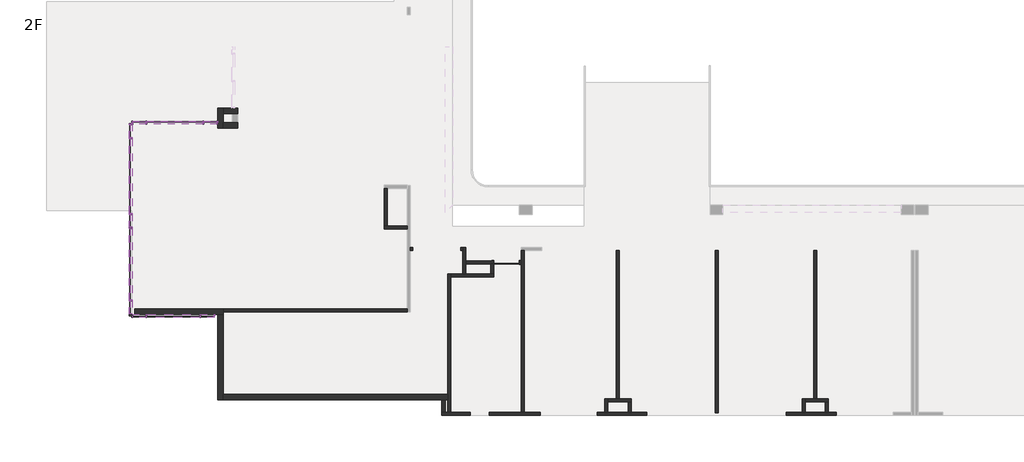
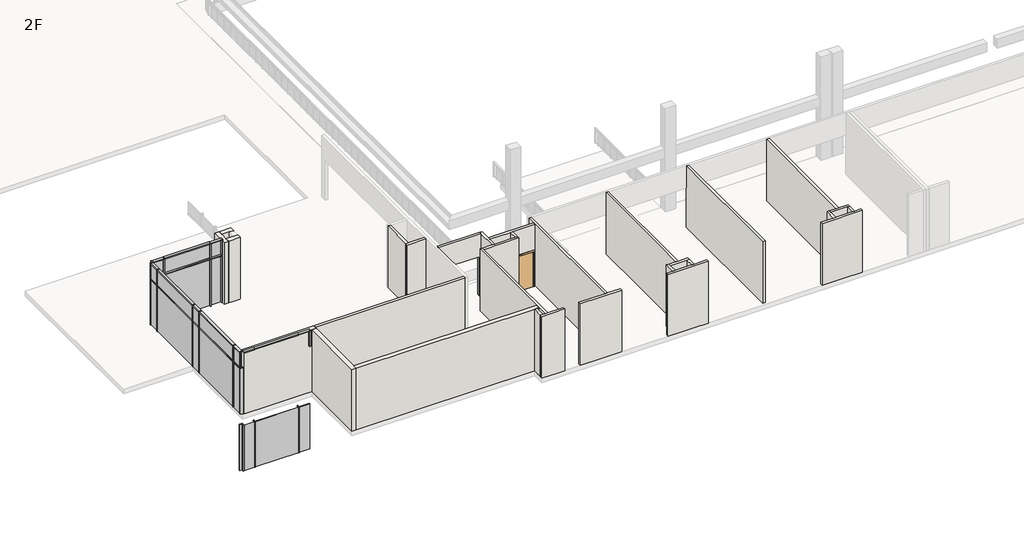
# One storey, part 1 of 6: 40 members, 30 walls, 19 plates, 1 door.
"""IFC4 building model written with IfcOpenShell, lengths in millimetres."""

from ifc_helpers import new_model, si_unit, frame, origin, place, context, project, spatial, polyline, outline, extrude, faceted_brep, transform, mapped, element, save
from components import m_single_flush_d_1200x2150_085a39eb, rectangular_mullion_50_x_150mm_64d38db8, rectangular_mullion_50_x_150mm_68b3818a, rectangular_mullion_50_x_150mm_0240cd64, rectangular_mullion_50_x_150mm_24ac0887, rectangular_mullion_50_x_150mm_8a594f5d, rectangular_mullion_50_x_150mm_86a57cfb, rectangular_mullion_50_x_150mm_fa1304e5, rectangular_mullion_50_x_150mm_567c0dda, rectangular_mullion_50_x_150mm_fb6851b2, rectangular_mullion_50_x_150mm_de4636ea, rectangular_mullion_50_x_150mm_603ec532, rectangular_mullion_50_x_150mm_2c7bb3b8, rectangular_mullion_50_x_150mm_2bd3e109, rectangular_mullion_50_x_150mm_2578323a, rectangular_mullion_50_x_150mm_bb797b61, rectangular_mullion_50_x_150mm_fae7d408, rectangular_mullion_50_x_150mm_eb2312db, v_corner_mullion_v_mullion_1_9a63857a, v_corner_mullion_v_mullion_1_634ccf5c, system_panel_glazed_e5239730, system_panel_glazed_59a07159, system_panel_glazed_c57c7bc0, system_panel_glazed_6001607f, system_panel_glazed_c925beaf, system_panel_glazed_53b3c72d, system_panel_glazed_bd177dae, system_panel_glazed_5e053889, system_panel_glazed_2f9f84b5, system_panel_glazed_45b61f71, system_panel_glazed_ecfc68fb, system_panel_glazed_2714af2c, system_panel_glazed_ea286d05, system_panel_glazed_212870f7

model = new_model("IFC4")

# Units and contexts
model_context = context("Model", 3, world=origin())
ifc_project = project(units=[si_unit("LENGTHUNIT", "METRE", prefix="MILLI")], contexts=[model_context])

# Site, building, storey
site = spatial("IfcSite", under=ifc_project)
building = spatial("IfcBuilding", under=site)
storey = spatial("IfcBuildingStorey", under=building, Name="2F", Elevation=8100.0)

# Door
placement = place(None, origin())
m_single_flush_d_1200x2150_shape = m_single_flush_d_1200x2150_085a39eb(model_context)
element("IfcDoor", 1, ObjectType="M_Single-Flush : D-1200x2150", at=placement, inside=storey, context=model_context, shape_type="MappedRepresentation", body=[
    mapped(m_single_flush_d_1200x2150_shape, transform((-18037.5865899, -18671.6148653, 8100.0), x_axis=(1.0, 0.0, 0.0), y_axis=(0.0, 1.0, 0.0), z_axis=(0.0, 0.0, 1.0))),
])

# Members
rectangular_mullion_50_x_150mm_shape = rectangular_mullion_50_x_150mm_64d38db8(model_context)
element("IfcMember", 2, ObjectType="Rectangular Mullion : 50 x 150mm", at=placement, inside=storey, context=model_context, shape_type="MappedRepresentation", body=[
    mapped(rectangular_mullion_50_x_150mm_shape, transform((-35612.5865899, -20472.6148653, 11950.0), x_axis=(0.0, 0.0, 1.0), y_axis=(1.0, 0.0, 0.0), z_axis=(0.0, 1.0, 0.0))),
])
element("IfcMember", 3, ObjectType="Rectangular Mullion : 50 x 150mm", at=placement, inside=storey, context=model_context, shape_type="MappedRepresentation", body=[
    mapped(rectangular_mullion_50_x_150mm_shape, transform((-35612.5865899, -16422.6148653, 11950.0), x_axis=(0.0, 0.0, 1.0), y_axis=(1.0, 0.0, 0.0), z_axis=(0.0, 1.0, 0.0))),
])
element("IfcMember", 4, ObjectType="Rectangular Mullion : 50 x 150mm", at=placement, inside=storey, context=model_context, shape_type="MappedRepresentation", body=[
    mapped(rectangular_mullion_50_x_150mm_shape, transform((-32337.5865899, -21172.6148653, 11950.0), x_axis=(0.0, 0.0, 1.0), y_axis=(0.0, 1.0, 0.0), z_axis=(-1.0, 0.0, 0.0))),
])
rectangular_mullion_50_x_150mm_2_shape = rectangular_mullion_50_x_150mm_68b3818a(model_context)
element("IfcMember", 5, ObjectType="Rectangular Mullion : 50 x 150mm", at=placement, inside=storey, context=model_context, shape_type="MappedRepresentation", body=[
    mapped(rectangular_mullion_50_x_150mm_2_shape, transform((-35612.5865899, -20472.6148653, 10975.0), x_axis=(0.0, 0.0, 1.0), y_axis=(1.0, 0.0, 0.0), z_axis=(0.0, 1.0, 0.0))),
])
element("IfcMember", 6, ObjectType="Rectangular Mullion : 50 x 150mm", at=placement, inside=storey, context=model_context, shape_type="MappedRepresentation", body=[
    mapped(rectangular_mullion_50_x_150mm_2_shape, transform((-35612.5865899, -16422.6148653, 10975.0), x_axis=(0.0, 0.0, 1.0), y_axis=(1.0, 0.0, 0.0), z_axis=(0.0, 1.0, 0.0))),
])
element("IfcMember", 7, ObjectType="Rectangular Mullion : 50 x 150mm", at=placement, inside=storey, context=model_context, shape_type="MappedRepresentation", body=[
    mapped(rectangular_mullion_50_x_150mm_2_shape, transform((-35612.5865899, -12227.6148653, 10975.0), x_axis=(0.0, 0.0, 1.0), y_axis=(1.0, 0.0, 0.0), z_axis=(0.0, 1.0, 0.0))),
])
rectangular_mullion_50_x_150mm_3_shape = rectangular_mullion_50_x_150mm_0240cd64(model_context)
element("IfcMember", 8, ObjectType="Rectangular Mullion : 50 x 150mm", at=placement, inside=storey, context=model_context, shape_type="MappedRepresentation", body=[
    mapped(rectangular_mullion_50_x_150mm_3_shape, transform((-34862.5865899, -21172.6148653, 11950.0), x_axis=(0.0, 0.0, 1.0), y_axis=(0.0, 1.0, 0.0), z_axis=(-1.0, 0.0, 0.0))),
])
rectangular_mullion_50_x_150mm_4_shape = rectangular_mullion_50_x_150mm_24ac0887(model_context)
element("IfcMember", 9, ObjectType="Rectangular Mullion : 50 x 150mm", at=placement, inside=storey, context=model_context, shape_type="MappedRepresentation", body=[
    mapped(rectangular_mullion_50_x_150mm_4_shape, transform((-35612.5865899, -17072.6148653, 11950.0), x_axis=(0.0, 0.0, 1.0), y_axis=(1.0, 0.0, 0.0), z_axis=(0.0, 1.0, 0.0))),
])
element("IfcMember", 10, ObjectType="Rectangular Mullion : 50 x 150mm", at=placement, inside=storey, context=model_context, shape_type="MappedRepresentation", body=[
    mapped(rectangular_mullion_50_x_150mm_shape, transform((-35512.5865899, -21172.6148653, 11950.0), x_axis=(0.0, 0.0, 1.0), y_axis=(0.0, 1.0, 0.0), z_axis=(-1.0, 0.0, 0.0))),
])
element("IfcMember", 11, ObjectType="Rectangular Mullion : 50 x 150mm", at=placement, inside=storey, context=model_context, shape_type="MappedRepresentation", body=[
    mapped(rectangular_mullion_50_x_150mm_shape, transform((-35612.5865899, -12227.6148653, 11950.0), x_axis=(0.0, 0.0, 1.0), y_axis=(1.0, 0.0, 0.0), z_axis=(0.0, 1.0, 0.0))),
])
element("IfcMember", 12, ObjectType="Rectangular Mullion : 50 x 150mm", at=placement, inside=storey, context=model_context, shape_type="MappedRepresentation", body=[
    mapped(rectangular_mullion_50_x_150mm_shape, transform((-35512.5865899, -12127.6148653, 11950.0), x_axis=(0.0, 0.0, 1.0), y_axis=(0.0, 1.0, 0.0), z_axis=(-1.0, 0.0, 0.0))),
])
element("IfcMember", 13, ObjectType="Rectangular Mullion : 50 x 150mm", at=placement, inside=storey, context=model_context, shape_type="MappedRepresentation", body=[
    mapped(rectangular_mullion_50_x_150mm_2_shape, transform((-35512.5865899, -12127.6148653, 10975.0), x_axis=(0.0, 0.0, 1.0), y_axis=(0.0, 1.0, 0.0), z_axis=(-1.0, 0.0, 0.0))),
])
rectangular_mullion_50_x_150mm_5_shape = rectangular_mullion_50_x_150mm_8a594f5d(model_context)
element("IfcMember", 14, ObjectType="Rectangular Mullion : 50 x 150mm", at=placement, inside=storey, context=model_context, shape_type="MappedRepresentation", body=[
    mapped(rectangular_mullion_50_x_150mm_5_shape, transform((-35612.5865899, -12877.6148653, 11950.0), x_axis=(0.0, 0.0, 1.0), y_axis=(1.0, 0.0, 0.0), z_axis=(0.0, 1.0, 0.0))),
])
rectangular_mullion_50_x_150mm_6_shape = rectangular_mullion_50_x_150mm_86a57cfb(model_context)
element("IfcMember", 15, ObjectType="Rectangular Mullion : 50 x 150mm", at=placement, inside=storey, context=model_context, shape_type="MappedRepresentation", body=[
    mapped(rectangular_mullion_50_x_150mm_6_shape, transform((-35612.5865899, -17072.6148653, 10975.0), x_axis=(0.0, 0.0, 1.0), y_axis=(1.0, 0.0, 0.0), z_axis=(0.0, 1.0, 0.0))),
])
rectangular_mullion_50_x_150mm_7_shape = rectangular_mullion_50_x_150mm_fa1304e5(model_context)
element("IfcMember", 16, ObjectType="Rectangular Mullion : 50 x 150mm", at=placement, inside=storey, context=model_context, shape_type="MappedRepresentation", body=[
    mapped(rectangular_mullion_50_x_150mm_7_shape, transform((-35612.5865899, -12877.6148653, 10975.0), x_axis=(0.0, 0.0, 1.0), y_axis=(1.0, 0.0, 0.0), z_axis=(0.0, 1.0, 0.0))),
])
rectangular_mullion_50_x_150mm_8_shape = rectangular_mullion_50_x_150mm_567c0dda(model_context)
element("IfcMember", 17, ObjectType="Rectangular Mullion : 50 x 150mm", at=placement, inside=storey, context=model_context, shape_type="MappedRepresentation", body=[
    mapped(rectangular_mullion_50_x_150mm_8_shape, transform((-35612.5865899, -20447.6148653, 8200.0), x_axis=(0.0, 1.0, 0.0), y_axis=(1.0, 0.0, 0.0), z_axis=(0.0, 0.0, -1.0))),
])
element("IfcMember", 18, ObjectType="Rectangular Mullion : 50 x 150mm", at=placement, inside=storey, context=model_context, shape_type="MappedRepresentation", body=[
    mapped(rectangular_mullion_50_x_150mm_8_shape, transform((-35612.5865899, -12852.6148653, 8200.0), x_axis=(0.0, 1.0, 0.0), y_axis=(1.0, 0.0, 0.0), z_axis=(0.0, 0.0, -1.0))),
])
element("IfcMember", 19, ObjectType="Rectangular Mullion : 50 x 150mm", at=placement, inside=storey, context=model_context, shape_type="MappedRepresentation", body=[
    mapped(rectangular_mullion_50_x_150mm_8_shape, transform((-35612.5865899, -16397.6148653, 8200.0), x_axis=(0.0, 1.0, 0.0), y_axis=(1.0, 0.0, 0.0), z_axis=(0.0, 0.0, -1.0))),
])
element("IfcMember", 20, ObjectType="Rectangular Mullion : 50 x 150mm", at=placement, inside=storey, context=model_context, shape_type="MappedRepresentation", body=[
    mapped(rectangular_mullion_50_x_150mm_8_shape, transform((-35612.5865899, -17047.6148653, 8200.0), x_axis=(0.0, 1.0, 0.0), y_axis=(1.0, 0.0, 0.0), z_axis=(0.0, 0.0, -1.0))),
])
element("IfcMember", 21, ObjectType="Rectangular Mullion : 50 x 150mm", at=placement, inside=storey, context=model_context, shape_type="MappedRepresentation", body=[
    mapped(rectangular_mullion_50_x_150mm_8_shape, transform((-34887.5865899, -21172.6148653, 4750.0), x_axis=(-1.0, 0.0, 0.0), y_axis=(0.0, 1.0, 0.0), z_axis=(0.0, 0.0, -1.0))),
])
element("IfcMember", 22, ObjectType="Rectangular Mullion : 50 x 150mm", at=placement, inside=storey, context=model_context, shape_type="MappedRepresentation", body=[
    mapped(rectangular_mullion_50_x_150mm_8_shape, transform((-32362.5865899, -21172.6148653, 4750.0), x_axis=(-1.0, 0.0, 0.0), y_axis=(0.0, 1.0, 0.0), z_axis=(0.0, 0.0, -1.0))),
])
rectangular_mullion_50_x_150mm_9_shape = rectangular_mullion_50_x_150mm_fb6851b2(model_context)
element("IfcMember", 23, ObjectType="Rectangular Mullion : 50 x 150mm", at=placement, inside=storey, context=model_context, shape_type="MappedRepresentation", body=[
    mapped(rectangular_mullion_50_x_150mm_9_shape, transform((-35612.5865899, -21172.6148653, 10975.0), x_axis=(0.0, -1.0, 0.0), y_axis=(1.0, 0.0, 0.0), z_axis=(0.0, 0.0, 1.0))),
])
rectangular_mullion_50_x_150mm_10_shape = rectangular_mullion_50_x_150mm_de4636ea(model_context)
element("IfcMember", 24, ObjectType="Rectangular Mullion : 50 x 150mm", at=placement, inside=storey, context=model_context, shape_type="MappedRepresentation", body=[
    mapped(rectangular_mullion_50_x_150mm_10_shape, transform((-34862.5865899, -12127.6148653, 11950.0), x_axis=(0.0, 0.0, 1.0), y_axis=(0.0, 1.0, 0.0), z_axis=(-1.0, 0.0, 0.0))),
])
rectangular_mullion_50_x_150mm_11_shape = rectangular_mullion_50_x_150mm_603ec532(model_context)
element("IfcMember", 25, ObjectType="Rectangular Mullion : 50 x 150mm", at=placement, inside=storey, context=model_context, shape_type="MappedRepresentation", body=[
    mapped(rectangular_mullion_50_x_150mm_11_shape, transform((-34887.5865899, -12127.6148653, 8100.0), x_axis=(-1.0, 0.0, 0.0), y_axis=(0.0, 1.0, 0.0), z_axis=(0.0, 0.0, -1.0))),
])
element("IfcMember", 26, ObjectType="Rectangular Mullion : 50 x 150mm", at=placement, inside=storey, context=model_context, shape_type="MappedRepresentation", body=[
    mapped(rectangular_mullion_50_x_150mm_11_shape, transform((-32212.5865899, -12127.6148653, 8100.0), x_axis=(-1.0, 0.0, 0.0), y_axis=(0.0, 1.0, 0.0), z_axis=(0.0, 0.0, -1.0))),
])
rectangular_mullion_50_x_150mm_12_shape = rectangular_mullion_50_x_150mm_2c7bb3b8(model_context)
element("IfcMember", 27, ObjectType="Rectangular Mullion : 50 x 150mm", at=placement, inside=storey, context=model_context, shape_type="MappedRepresentation", body=[
    mapped(rectangular_mullion_50_x_150mm_12_shape, transform((-34862.5865899, -12127.6148653, 10975.0), x_axis=(0.0, 0.0, 1.0), y_axis=(0.0, 1.0, 0.0), z_axis=(-1.0, 0.0, 0.0))),
])
rectangular_mullion_50_x_150mm_13_shape = rectangular_mullion_50_x_150mm_2bd3e109(model_context)
element("IfcMember", 28, ObjectType="Rectangular Mullion : 50 x 150mm", at=placement, inside=storey, context=model_context, shape_type="MappedRepresentation", body=[
    mapped(rectangular_mullion_50_x_150mm_13_shape, transform((-31536.0865899, -12127.6148653, 10975.0), x_axis=(1.0, 0.0, 0.0), y_axis=(0.0, 1.0, 0.0), z_axis=(0.0, 0.0, 1.0))),
])
rectangular_mullion_50_x_150mm_14_shape = rectangular_mullion_50_x_150mm_2578323a(model_context)
element("IfcMember", 29, ObjectType="Rectangular Mullion : 50 x 150mm", at=placement, inside=storey, context=model_context, shape_type="MappedRepresentation", body=[
    mapped(rectangular_mullion_50_x_150mm_14_shape, transform((-31687.5865899, -21172.6148653, 11950.0), x_axis=(1.0, 0.0, 0.0), y_axis=(0.0, 1.0, 0.0), z_axis=(0.0, 0.0, 1.0))),
])
rectangular_mullion_50_x_150mm_15_shape = rectangular_mullion_50_x_150mm_bb797b61(model_context)
element("IfcMember", 30, ObjectType="Rectangular Mullion : 50 x 150mm", at=placement, inside=storey, context=model_context, shape_type="MappedRepresentation", body=[
    mapped(rectangular_mullion_50_x_150mm_15_shape, transform((-35612.5865899, -20447.6148653, 10975.0), x_axis=(0.0, 1.0, 0.0), y_axis=(1.0, 0.0, 0.0), z_axis=(0.0, 0.0, -1.0))),
])
element("IfcMember", 31, ObjectType="Rectangular Mullion : 50 x 150mm", at=placement, inside=storey, context=model_context, shape_type="MappedRepresentation", body=[
    mapped(rectangular_mullion_50_x_150mm_15_shape, transform((-35612.5865899, -17047.6148653, 10975.0), x_axis=(0.0, 1.0, 0.0), y_axis=(1.0, 0.0, 0.0), z_axis=(0.0, 0.0, -1.0))),
])
element("IfcMember", 32, ObjectType="Rectangular Mullion : 50 x 150mm", at=placement, inside=storey, context=model_context, shape_type="MappedRepresentation", body=[
    mapped(rectangular_mullion_50_x_150mm_15_shape, transform((-35612.5865899, -16397.6148653, 10975.0), x_axis=(0.0, 1.0, 0.0), y_axis=(1.0, 0.0, 0.0), z_axis=(0.0, 0.0, -1.0))),
])
element("IfcMember", 33, ObjectType="Rectangular Mullion : 50 x 150mm", at=placement, inside=storey, context=model_context, shape_type="MappedRepresentation", body=[
    mapped(rectangular_mullion_50_x_150mm_15_shape, transform((-35612.5865899, -12852.6148653, 10975.0), x_axis=(0.0, 1.0, 0.0), y_axis=(1.0, 0.0, 0.0), z_axis=(0.0, 0.0, -1.0))),
])
element("IfcMember", 34, ObjectType="Rectangular Mullion : 50 x 150mm", at=placement, inside=storey, context=model_context, shape_type="MappedRepresentation", body=[
    mapped(rectangular_mullion_50_x_150mm_15_shape, transform((-34887.5865899, -12127.6148653, 10975.0), x_axis=(-1.0, 0.0, 0.0), y_axis=(0.0, 1.0, 0.0), z_axis=(0.0, 0.0, -1.0))),
])
element("IfcMember", 35, ObjectType="Rectangular Mullion : 50 x 150mm", at=placement, inside=storey, context=model_context, shape_type="MappedRepresentation", body=[
    mapped(rectangular_mullion_50_x_150mm_15_shape, transform((-32212.5865899, -12127.6148653, 10975.0), x_axis=(-1.0, 0.0, 0.0), y_axis=(0.0, 1.0, 0.0), z_axis=(0.0, 0.0, -1.0))),
])
element("IfcMember", 36, ObjectType="Rectangular Mullion : 50 x 150mm", at=placement, inside=storey, context=model_context, shape_type="MappedRepresentation", body=[
    mapped(rectangular_mullion_50_x_150mm_14_shape, transform((-31536.0865899, -12127.6148653, 11950.0), x_axis=(1.0, 0.0, 0.0), y_axis=(0.0, 1.0, 0.0), z_axis=(0.0, 0.0, 1.0))),
])
rectangular_mullion_50_x_150mm_16_shape = rectangular_mullion_50_x_150mm_fae7d408(model_context)
element("IfcMember", 37, ObjectType="Rectangular Mullion : 50 x 150mm", at=placement, inside=storey, context=model_context, shape_type="MappedRepresentation", body=[
    mapped(rectangular_mullion_50_x_150mm_16_shape, transform((-32187.5865899, -12127.6148653, 10975.0), x_axis=(0.0, 0.0, 1.0), y_axis=(0.0, 1.0, 0.0), z_axis=(-1.0, 0.0, 0.0))),
])
rectangular_mullion_50_x_150mm_17_shape = rectangular_mullion_50_x_150mm_eb2312db(model_context)
element("IfcMember", 38, ObjectType="Rectangular Mullion : 50 x 150mm", at=placement, inside=storey, context=model_context, shape_type="MappedRepresentation", body=[
    mapped(rectangular_mullion_50_x_150mm_17_shape, transform((-32187.5865899, -12127.6148653, 11950.0), x_axis=(0.0, 0.0, 1.0), y_axis=(0.0, 1.0, 0.0), z_axis=(-1.0, 0.0, 0.0))),
])
v_corner_mullion_v_mullion_1_shape = v_corner_mullion_v_mullion_1_9a63857a(model_context)
element("IfcMember", 39, ObjectType="V Corner Mullion : V Mullion 1", at=placement, inside=storey, context=model_context, shape_type="MappedRepresentation", body=[
    mapped(v_corner_mullion_v_mullion_1_shape, transform((-35612.5865899, -21172.6148653, 4750.0), x_axis=(-1.0, 0.0, 0.0), y_axis=(0.0, 1.0, 0.0), z_axis=(0.0, 0.0, -1.0))),
])
element("IfcMember", 40, ObjectType="V Corner Mullion : V Mullion 1", at=placement, inside=storey, context=model_context, shape_type="MappedRepresentation", body=[
    mapped(v_corner_mullion_v_mullion_1_shape, transform((-35612.5865899, -12127.6148653, 8200.0), x_axis=(0.0, 1.0, 0.0), y_axis=(1.0, 0.0, 0.0), z_axis=(0.0, 0.0, -1.0))),
])
v_corner_mullion_v_mullion_1_2_shape = v_corner_mullion_v_mullion_1_634ccf5c(model_context)
element("IfcMember", 41, ObjectType="V Corner Mullion : V Mullion 1", at=placement, inside=storey, context=model_context, shape_type="MappedRepresentation", body=[
    mapped(v_corner_mullion_v_mullion_1_2_shape, transform((-35612.5865899, -12127.6148653, 10975.0), x_axis=(0.0, 1.0, 0.0), y_axis=(1.0, 0.0, 0.0), z_axis=(0.0, 0.0, -1.0))),
])

# Plates
system_panel_glazed_shape = system_panel_glazed_e5239730(model_context)
element("IfcPlate", 42, ObjectType="System Panel : Glazed", at=placement, inside=storey, context=model_context, shape_type="MappedRepresentation", body=[
    mapped(system_panel_glazed_shape, transform((-32037.5865899, -21172.6148653, 4750.0), x_axis=(-1.0, 0.0, 0.0), y_axis=(0.0, -1.0, 0.0), z_axis=(0.0, 0.0, 1.0))),
])
element("IfcPlate", 43, ObjectType="System Panel : Glazed", at=placement, inside=storey, context=model_context, shape_type="MappedRepresentation", body=[
    mapped(system_panel_glazed_shape, transform((-35612.5865899, -12527.6148653, 8200.0), x_axis=(0.0, 1.0, 0.0), y_axis=(-1.0, 0.0, 0.0), z_axis=(0.0, 0.0, 1.0))),
])
element("IfcPlate", 44, ObjectType="System Panel : Glazed", at=placement, inside=storey, context=model_context, shape_type="MappedRepresentation", body=[
    mapped(system_panel_glazed_shape, transform((-35612.5865899, -16722.6148653, 8200.0), x_axis=(0.0, 1.0, 0.0), y_axis=(-1.0, 0.0, 0.0), z_axis=(0.0, 0.0, 1.0))),
])
element("IfcPlate", 45, ObjectType="System Panel : Glazed", at=placement, inside=storey, context=model_context, shape_type="MappedRepresentation", body=[
    mapped(system_panel_glazed_shape, transform((-35212.5865899, -21172.6148653, 4750.0), x_axis=(-1.0, 0.0, 0.0), y_axis=(0.0, -1.0, 0.0), z_axis=(0.0, 0.0, 1.0))),
])
system_panel_glazed_2_shape = system_panel_glazed_59a07159(model_context)
element("IfcPlate", 46, ObjectType="System Panel : Glazed", at=placement, inside=storey, context=model_context, shape_type="MappedRepresentation", body=[
    mapped(system_panel_glazed_2_shape, transform((-35612.5865899, -20797.6148653, 8200.0), x_axis=(0.0, 1.0, 0.0), y_axis=(-1.0, 0.0, 0.0), z_axis=(0.0, 0.0, 1.0))),
])
system_panel_glazed_3_shape = system_panel_glazed_c57c7bc0(model_context)
element("IfcPlate", 47, ObjectType="System Panel : Glazed", at=placement, inside=storey, context=model_context, shape_type="MappedRepresentation", body=[
    mapped(system_panel_glazed_3_shape, transform((-35612.5865899, -18747.6148653, 8200.0), x_axis=(0.0, 1.0, 0.0), y_axis=(-1.0, 0.0, 0.0), z_axis=(0.0, 0.0, 1.0))),
])
system_panel_glazed_4_shape = system_panel_glazed_6001607f(model_context)
element("IfcPlate", 48, ObjectType="System Panel : Glazed", at=placement, inside=storey, context=model_context, shape_type="MappedRepresentation", body=[
    mapped(system_panel_glazed_4_shape, transform((-35612.5865899, -14625.1148653, 8200.0), x_axis=(0.0, 1.0, 0.0), y_axis=(-1.0, 0.0, 0.0), z_axis=(0.0, 0.0, 1.0))),
])
system_panel_glazed_5_shape = system_panel_glazed_c925beaf(model_context)
element("IfcPlate", 49, ObjectType="System Panel : Glazed", at=placement, inside=storey, context=model_context, shape_type="MappedRepresentation", body=[
    mapped(system_panel_glazed_5_shape, transform((-33625.0865899, -21172.6148653, 4750.0), x_axis=(-1.0, 0.0, 0.0), y_axis=(0.0, -1.0, 0.0), z_axis=(0.0, 0.0, 1.0))),
])
system_panel_glazed_6_shape = system_panel_glazed_53b3c72d(model_context)
element("IfcPlate", 50, ObjectType="System Panel : Glazed", at=placement, inside=storey, context=model_context, shape_type="MappedRepresentation", body=[
    mapped(system_panel_glazed_6_shape, transform((-35212.5865899, -12127.6148653, 8100.0), x_axis=(-1.0, 0.0, 0.0), y_axis=(0.0, -1.0, 0.0), z_axis=(0.0, 0.0, 1.0))),
])
system_panel_glazed_7_shape = system_panel_glazed_bd177dae(model_context)
element("IfcPlate", 51, ObjectType="System Panel : Glazed", at=placement, inside=storey, context=model_context, shape_type="MappedRepresentation", body=[
    mapped(system_panel_glazed_7_shape, transform((-33550.0865899, -12127.6148653, 8100.0), x_axis=(-1.0, 0.0, 0.0), y_axis=(0.0, -1.0, 0.0), z_axis=(0.0, 0.0, 1.0))),
])
system_panel_glazed_8_shape = system_panel_glazed_5e053889(model_context)
element("IfcPlate", 52, ObjectType="System Panel : Glazed", at=placement, inside=storey, context=model_context, shape_type="MappedRepresentation", body=[
    mapped(system_panel_glazed_8_shape, transform((-35612.5865899, -20772.6148653, 11000.0), x_axis=(0.0, 1.0, 0.0), y_axis=(-1.0, 0.0, 0.0), z_axis=(0.0, 0.0, 1.0))),
])
element("IfcPlate", 53, ObjectType="System Panel : Glazed", at=placement, inside=storey, context=model_context, shape_type="MappedRepresentation", body=[
    mapped(system_panel_glazed_8_shape, transform((-35612.5865899, -16722.6148653, 11000.0), x_axis=(0.0, 1.0, 0.0), y_axis=(-1.0, 0.0, 0.0), z_axis=(0.0, 0.0, 1.0))),
])
element("IfcPlate", 54, ObjectType="System Panel : Glazed", at=placement, inside=storey, context=model_context, shape_type="MappedRepresentation", body=[
    mapped(system_panel_glazed_8_shape, transform((-35612.5865899, -12527.6148653, 11000.0), x_axis=(0.0, 1.0, 0.0), y_axis=(-1.0, 0.0, 0.0), z_axis=(0.0, 0.0, 1.0))),
])
system_panel_glazed_9_shape = system_panel_glazed_2f9f84b5(model_context)
element("IfcPlate", 55, ObjectType="System Panel : Glazed", at=placement, inside=storey, context=model_context, shape_type="MappedRepresentation", body=[
    mapped(system_panel_glazed_9_shape, transform((-35612.5865899, -18747.6148653, 11000.0), x_axis=(0.0, 1.0, 0.0), y_axis=(-1.0, 0.0, 0.0), z_axis=(0.0, 0.0, 1.0))),
])
system_panel_glazed_10_shape = system_panel_glazed_45b61f71(model_context)
element("IfcPlate", 56, ObjectType="System Panel : Glazed", at=placement, inside=storey, context=model_context, shape_type="MappedRepresentation", body=[
    mapped(system_panel_glazed_10_shape, transform((-35612.5865899, -14625.1148653, 11000.0), x_axis=(0.0, 1.0, 0.0), y_axis=(-1.0, 0.0, 0.0), z_axis=(0.0, 0.0, 1.0))),
])
system_panel_glazed_11_shape = system_panel_glazed_ecfc68fb(model_context)
element("IfcPlate", 57, ObjectType="System Panel : Glazed", at=placement, inside=storey, context=model_context, shape_type="MappedRepresentation", body=[
    mapped(system_panel_glazed_11_shape, transform((-35212.5865899, -12127.6148653, 11000.0), x_axis=(-1.0, 0.0, 0.0), y_axis=(0.0, -1.0, 0.0), z_axis=(0.0, 0.0, 1.0))),
])
system_panel_glazed_12_shape = system_panel_glazed_2714af2c(model_context)
element("IfcPlate", 58, ObjectType="System Panel : Glazed", at=placement, inside=storey, context=model_context, shape_type="MappedRepresentation", body=[
    mapped(system_panel_glazed_12_shape, transform((-33550.0865899, -12127.6148653, 11000.0), x_axis=(-1.0, 0.0, 0.0), y_axis=(0.0, -1.0, 0.0), z_axis=(0.0, 0.0, 1.0))),
])
system_panel_glazed_13_shape = system_panel_glazed_ea286d05(model_context)
element("IfcPlate", 59, ObjectType="System Panel : Glazed", at=placement, inside=storey, context=model_context, shape_type="MappedRepresentation", body=[
    mapped(system_panel_glazed_13_shape, transform((-31886.8365899, -12127.6148653, 8100.0), x_axis=(-1.0, 0.0, 0.0), y_axis=(0.0, -1.0, 0.0), z_axis=(0.0, 0.0, 1.0))),
])
system_panel_glazed_14_shape = system_panel_glazed_212870f7(model_context)
element("IfcPlate", 60, ObjectType="System Panel : Glazed", at=placement, inside=storey, context=model_context, shape_type="MappedRepresentation", body=[
    mapped(system_panel_glazed_14_shape, transform((-31886.8365899, -12127.6148653, 11000.0), x_axis=(-1.0, 0.0, 0.0), y_axis=(0.0, -1.0, 0.0), z_axis=(0.0, 0.0, 1.0))),
])

# Walls
element("IfcWall", 61, ObjectType="wall-115", at=placement, inside=storey, context=model_context, shape_type="Brep", body=[
    faceted_brep([(-4065.5865899, -25692.6148653, 8100.0), (-4065.5865899, -25204.6148653, 8100.0), (-4065.5865899, -25062.6148653, 8100.0), (-4065.5865899, -25062.6148653, 11850.0), (-4065.5865899, -25204.6148653, 11850.0), (-4065.5865899, -25692.6148653, 11850.0), (-4207.5865899, -25692.6148653, 8100.0), (-4207.5865899, -25692.6148653, 11850.0), (-4207.5865899, -25062.6148653, 11850.0), (-4207.5865899, -25062.6148653, 8100.0)], [[[0, 1, 2, 3, 4, 5]], [[6, 7, 8, 9]], [[2, 1, 0, 6, 9]], [[5, 4, 3, 8, 7]], [[3, 2, 9, 8]], [[0, 5, 7, 6]]]),
])
element("IfcWall", 62, ObjectType="wall-115", at=placement, inside=storey, context=model_context, shape_type="Brep", body=[
    faceted_brep([(-4065.5865899, -25204.6148653, 8100.0), (-3119.5865899, -25204.6148653, 8100.0), (-2977.5865899, -25204.6148653, 8100.0), (-2977.5865899, -25204.6148653, 11850.0), (-3119.5865899, -25204.6148653, 11850.0), (-4065.5865899, -25204.6148653, 11850.0), (-4065.5865899, -25062.6148653, 8100.0), (-4065.5865899, -25062.6148653, 11850.0), (-3665.0865899, -25062.6148653, 11850.0), (-3523.0865899, -25062.6148653, 11850.0), (-2977.5865899, -25062.6148653, 11850.0), (-2977.5865899, -25062.6148653, 8100.0), (-3523.0865899, -25062.6148653, 8100.0), (-3665.0865899, -25062.6148653, 8100.0)], [[[0, 1, 2, 3, 4, 5]], [[6, 7, 8, 9, 10, 11, 12, 13]], [[2, 1, 0, 6, 13, 12, 11]], [[5, 4, 3, 10, 9, 8, 7]], [[0, 5, 7, 6]], [[3, 2, 11, 10]]]),
])
element("IfcWall", 63, ObjectType="wall-115", at=placement, inside=storey, context=model_context, shape_type="SweptSolid", body=[
    extrude(outline(polyline([(-3119.5865899, -25692.6148653), (-3119.5865899, -25204.6148653), (-2977.5865899, -25204.6148653), (-2977.5865899, -25692.6148653), (-3119.5865899, -25692.6148653)])), frame((0.0, 0.0, 8100.0), z_axis=(0.0, 0.0, 1.0), x_axis=(1.0, 0.0, 0.0)), (0.0, 0.0, 1.0), 3750.0),
])
element("IfcWall", 64, ObjectType="wall-115", at=placement, inside=storey, context=model_context, shape_type="SweptSolid", body=[
    extrude(outline(polyline([(-3523.0865899, -18102.6148653), (-3523.0865899, -25062.6148653), (-3665.0865899, -25062.6148653), (-3665.0865899, -18102.6148653), (-3523.0865899, -18102.6148653)])), frame((0.0, 0.0, 8100.0), z_axis=(0.0, 0.0, 1.0), x_axis=(1.0, 0.0, 0.0)), (0.0, 0.0, 1.0), 3750.0),
])
element("IfcWall", 65, ObjectType="wall-115", at=placement, inside=storey, context=model_context, shape_type="SweptSolid", body=[
    extrude(outline(polyline([(-8138.0865899, -18102.6148653), (-8138.0865899, -25707.6148653), (-8280.0865899, -25707.6148653), (-8280.0865899, -18102.6148653), (-8138.0865899, -18102.6148653)])), frame((0.0, 0.0, 8100.0), z_axis=(0.0, 0.0, 1.0), x_axis=(1.0, 0.0, 0.0)), (0.0, 0.0, 1.0), 3750.0),
])
element("IfcWall", 66, ObjectType="wall-115", at=placement, inside=storey, context=model_context, shape_type="SweptSolid", body=[
    extrude(outline(polyline([(-12753.0865899, -18102.6148653), (-12753.0865899, -25062.6148653), (-12895.0865899, -25062.6148653), (-12895.0865899, -18102.6148653), (-12753.0865899, -18102.6148653)])), frame((0.0, 0.0, 8100.0), z_axis=(0.0, 0.0, 1.0), x_axis=(1.0, 0.0, 0.0)), (0.0, 0.0, 1.0), 3750.0),
])
element("IfcWall", 67, ObjectType="wall-115", at=placement, inside=storey, context=model_context, shape_type="Brep", body=[
    faceted_brep([(-17192.5865899, -25692.6148653, 8100.0), (-17192.5865899, -18102.6148653, 8100.0), (-17192.5865899, -18102.6148653, 11850.0), (-17192.5865899, -25692.6148653, 11850.0), (-17334.5865899, -25692.6148653, 8100.0), (-17334.5865899, -25692.6148653, 11850.0), (-17334.5865899, -18742.6148653, 11850.0), (-17334.5865899, -18600.6148653, 11850.0), (-17334.5865899, -18102.6148653, 11850.0), (-17334.5865899, -18102.6148653, 8100.0), (-17334.5865899, -18600.6148653, 8100.0), (-17334.5865899, -18742.6148653, 8100.0)], [[[0, 1, 2, 3]], [[4, 5, 6, 7, 8, 9, 10, 11]], [[1, 0, 4, 11, 10, 9]], [[3, 2, 8, 7, 6, 5]], [[2, 1, 9, 8]], [[0, 3, 5, 4]]]),
])
element("IfcWall", 68, ObjectType="wall-115", at=placement, inside=storey, context=model_context, shape_type="Brep", body=[
    faceted_brep([(-20782.5865899, -19217.6148653, 8100.0), (-20782.5865899, -24852.6148653, 8100.0), (-20782.5865899, -25109.6148653, 8100.0), (-20782.5865899, -25692.6148653, 8100.0), (-20782.5865899, -25692.6148653, 11850.0), (-20782.5865899, -25109.6148653, 11850.0), (-20782.5865899, -24852.6148653, 11850.0), (-20782.5865899, -19217.6148653, 11850.0), (-20640.5865899, -19217.6148653, 8100.0), (-20640.5865899, -19217.6148653, 11850.0), (-20640.5865899, -19359.6148653, 11850.0), (-20640.5865899, -25692.6148653, 11850.0), (-20640.5865899, -25692.6148653, 8100.0), (-20640.5865899, -19359.6148653, 8100.0)], [[[0, 1, 2, 3, 4, 5, 6, 7]], [[8, 9, 10, 11, 12, 13]], [[3, 2, 1, 0, 8, 13, 12]], [[7, 6, 5, 4, 11, 10, 9]], [[0, 7, 9, 8]], [[4, 3, 12, 11]]]),
])
element("IfcWall", 69, ObjectType="wall-115", at=placement, inside=storey, context=model_context, shape_type="SweptSolid", body=[
    extrude(outline(polyline([(-23747.5865898, -16972.6148653), (-23747.5865898, -15199.6310718), (-23605.5865898, -15199.6310718), (-23605.5865898, -16972.6148653), (-23747.5865898, -16972.6148653)])), frame((0.0, 0.0, 8100.0), z_axis=(0.0, 0.0, 1.0), x_axis=(1.0, 0.0, 0.0)), (0.0, 0.0, 1.0), 3750.0),
])
element("IfcWall", 70, ObjectType="wall-115", at=placement, inside=storey, context=model_context, shape_type="Brep", body=[
    faceted_brep([(-22667.5865898, -16972.6148653, 8100.0), (-23605.5865898, -16972.6148653, 8100.0), (-23747.5865898, -16972.6148653, 8100.0), (-23747.5865898, -16972.6148653, 11850.0), (-23605.5865898, -16972.6148653, 11850.0), (-22667.5865898, -16972.6148653, 11850.0), (-22667.5865898, -17114.6148653, 8100.0), (-22667.5865898, -17114.6148653, 11850.0), (-23747.5865898, -17114.6148653, 11850.0), (-23747.5865898, -17114.6148653, 8100.0)], [[[0, 1, 2, 3, 4, 5]], [[6, 7, 8, 9]], [[2, 1, 0, 6, 9]], [[5, 4, 3, 8, 7]], [[3, 2, 9, 8]], [[0, 5, 7, 6]]]),
])
element("IfcWall", 71, ObjectType="wall-115", at=placement, inside=storey, context=model_context, shape_type="SweptSolid", body=[
    extrude(outline(polyline([(10500.0, -20182.5865899), (8100.0, -20182.5865899), (8100.0, -20082.5865899), (11850.0, -20082.5865899), (11850.0, -22525.5865898), (8100.0, -22525.5865898), (8100.0, -22422.5865899), (10500.0, -22422.5865899), (10500.0, -20182.5865899)])), frame((0.0, -18102.6148653, 0.0), z_axis=(0.0, 1.0, 0.0), x_axis=(0.0, 0.0, 1.0)), (0.0, 0.0, 1.0), 142.0),
])
element("IfcWall", 72, ObjectType="wall-115", at=placement, inside=storey, context=model_context, shape_type="Brep", body=[
    faceted_brep([(-13295.5865899, -25692.6148653, 8100.0), (-13295.5865899, -25204.6148653, 8100.0), (-13295.5865899, -25062.6148653, 8100.0), (-13295.5865899, -25062.6148653, 11850.0), (-13295.5865899, -25204.6148653, 11850.0), (-13295.5865899, -25692.6148653, 11850.0), (-13437.5865899, -25692.6148653, 8100.0), (-13437.5865899, -25692.6148653, 11850.0), (-13437.5865899, -25062.6148653, 11850.0), (-13437.5865899, -25062.6148653, 8100.0)], [[[0, 1, 2, 3, 4, 5]], [[6, 7, 8, 9]], [[2, 1, 0, 6, 9]], [[5, 4, 3, 8, 7]], [[3, 2, 9, 8]], [[0, 5, 7, 6]]]),
])
element("IfcWall", 73, ObjectType="wall-115", at=placement, inside=storey, context=model_context, shape_type="Brep", body=[
    faceted_brep([(-13295.5865899, -25204.6148653, 8100.0), (-12349.5865899, -25204.6148653, 8100.0), (-12207.5865899, -25204.6148653, 8100.0), (-12207.5865899, -25204.6148653, 11850.0), (-12349.5865899, -25204.6148653, 11850.0), (-13295.5865899, -25204.6148653, 11850.0), (-13295.5865899, -25062.6148653, 8100.0), (-13295.5865899, -25062.6148653, 11850.0), (-12895.0865899, -25062.6148653, 11850.0), (-12753.0865899, -25062.6148653, 11850.0), (-12207.5865899, -25062.6148653, 11850.0), (-12207.5865899, -25062.6148653, 8100.0), (-12753.0865899, -25062.6148653, 8100.0), (-12895.0865899, -25062.6148653, 8100.0)], [[[0, 1, 2, 3, 4, 5]], [[6, 7, 8, 9, 10, 11, 12, 13]], [[2, 1, 0, 6, 13, 12, 11]], [[5, 4, 3, 10, 9, 8, 7]], [[0, 5, 7, 6]], [[3, 2, 11, 10]]]),
])
element("IfcWall", 74, ObjectType="wall-115", at=placement, inside=storey, context=model_context, shape_type="SweptSolid", body=[
    extrude(outline(polyline([(-12349.5865899, -25692.6148653), (-12349.5865899, -25204.6148653), (-12207.5865899, -25204.6148653), (-12207.5865899, -25692.6148653), (-12349.5865899, -25692.6148653)])), frame((0.0, 0.0, 8100.0), z_axis=(0.0, 0.0, 1.0), x_axis=(1.0, 0.0, 0.0)), (0.0, 0.0, 1.0), 3750.0),
])
element("IfcWall", 75, ObjectType="wall-115", at=placement, inside=storey, context=model_context, shape_type="Brep", body=[
    faceted_brep([(-20082.5865899, -17960.6148653, 8100.0), (-20082.5865899, -18102.6148653, 8100.0), (-20082.5865899, -19217.6148653, 8100.0), (-20082.5865899, -19217.6148653, 11850.0), (-20082.5865899, -18102.6148653, 11850.0), (-20082.5865899, -17960.6148653, 11850.0), (-19940.5865899, -17960.6148653, 8100.0), (-19940.5865899, -17960.6148653, 11850.0), (-19940.5865899, -18600.6148653, 11850.0), (-19940.5865899, -18742.6148653, 11850.0), (-19940.5865899, -19217.6148653, 11850.0), (-19940.5865899, -19217.6148653, 8100.0), (-19940.5865899, -18742.6148653, 8100.0), (-19940.5865899, -18600.6148653, 8100.0)], [[[0, 1, 2, 3, 4, 5]], [[6, 7, 8, 9, 10, 11, 12, 13]], [[2, 1, 0, 6, 13, 12, 11]], [[5, 4, 3, 10, 9, 8, 7]], [[0, 5, 7, 6]], [[3, 2, 11, 10]]]),
])
element("IfcWall", 76, ObjectType="wall-115", at=placement, inside=storey, context=model_context, shape_type="Brep", body=[
    faceted_brep([(-31292.5865899, -20994.6148653, 8100.0), (-22667.5865898, -20994.6148653, 8100.0), (-22667.5865898, -20994.6148653, 11850.0), (-31292.5865899, -20994.6148653, 11850.0), (-31292.5865899, -20852.6148653, 8100.0), (-31292.5865899, -20852.6148653, 11850.0), (-22667.5865898, -20852.6148653, 11850.0), (-22667.5865898, -20852.6148653, 8100.0), (-31292.5865899, -20855.6148653, 8100.0), (-31292.5865899, -20855.6148653, 11850.0)], [[[0, 1, 2, 3]], [[4, 5, 6, 7]], [[1, 0, 8, 4, 7]], [[3, 2, 6, 5, 9]], [[0, 3, 9, 5, 4, 8]], [[2, 1, 7, 6]]]),
])
element("IfcWall", 77, ObjectType="wall-115", at=placement, inside=storey, context=model_context, shape_type="Brep", body=[
    faceted_brep([(-21051.0865899, -25834.6148653, 8100.0), (-19737.5865899, -25834.6148653, 8100.0), (-19737.5865899, -25834.6148653, 11850.0), (-21051.0865899, -25834.6148653, 11850.0), (-21051.0865899, -25692.6148653, 8100.0), (-21051.0865899, -25692.6148653, 11850.0), (-20909.0865899, -25692.6148653, 11850.0), (-20782.5865899, -25692.6148653, 11850.0), (-20640.5865899, -25692.6148653, 11850.0), (-19737.5865899, -25692.6148653, 11850.0), (-19737.5865899, -25692.6148653, 8100.0), (-20640.5865899, -25692.6148653, 8100.0), (-20782.5865899, -25692.6148653, 8100.0), (-20909.0865899, -25692.6148653, 8100.0)], [[[0, 1, 2, 3]], [[4, 5, 6, 7, 8, 9, 10, 11, 12, 13]], [[1, 0, 4, 13, 12, 11, 10]], [[2, 1, 10, 9]], [[3, 2, 9, 8, 7, 6, 5]], [[0, 3, 5, 4]]]),
])
element("IfcWall", 78, ObjectType="wall-115", at=placement, inside=storey, context=model_context, shape_type="Brep", body=[
    faceted_brep([(-4937.5865899, -25834.6148653, 8100.0), (-2617.5865899, -25834.6148653, 8100.0), (-2617.5865899, -25834.6148653, 11850.0), (-4937.5865899, -25834.6148653, 11850.0), (-4937.5865899, -25692.6148653, 8100.0), (-4937.5865899, -25692.6148653, 11850.0), (-4207.5865899, -25692.6148653, 11850.0), (-4065.5865899, -25692.6148653, 11850.0), (-3119.5865899, -25692.6148653, 11850.0), (-2977.5865899, -25692.6148653, 11850.0), (-2617.5865899, -25692.6148653, 11850.0), (-2617.5865899, -25692.6148653, 8100.0), (-2977.5865899, -25692.6148653, 8100.0), (-3119.5865899, -25692.6148653, 8100.0), (-4065.5865899, -25692.6148653, 8100.0), (-4207.5865899, -25692.6148653, 8100.0)], [[[0, 1, 2, 3]], [[4, 5, 6, 7, 8, 9, 10, 11, 12, 13, 14, 15]], [[1, 0, 4, 15, 14, 13, 12, 11]], [[2, 1, 11, 10]], [[3, 2, 10, 9, 8, 7, 6, 5]], [[0, 3, 5, 4]]]),
])
element("IfcWall", 79, ObjectType="wall-115", at=placement, inside=storey, context=model_context, shape_type="Brep", body=[
    faceted_brep([(-13797.5865899, -25834.6148653, 8100.0), (-11477.5865899, -25834.6148653, 8100.0), (-11477.5865899, -25834.6148653, 11850.0), (-13797.5865899, -25834.6148653, 11850.0), (-13797.5865899, -25692.6148653, 8100.0), (-13797.5865899, -25692.6148653, 11850.0), (-13437.5865899, -25692.6148653, 11850.0), (-13295.5865899, -25692.6148653, 11850.0), (-12349.5865899, -25692.6148653, 11850.0), (-12207.5865899, -25692.6148653, 11850.0), (-11477.5865899, -25692.6148653, 11850.0), (-11477.5865899, -25692.6148653, 8100.0), (-12207.5865899, -25692.6148653, 8100.0), (-12349.5865899, -25692.6148653, 8100.0), (-13295.5865899, -25692.6148653, 8100.0), (-13437.5865899, -25692.6148653, 8100.0)], [[[0, 1, 2, 3]], [[4, 5, 6, 7, 8, 9, 10, 11, 12, 13, 14, 15]], [[1, 0, 4, 15, 14, 13, 12, 11]], [[2, 1, 11, 10]], [[3, 2, 10, 9, 8, 7, 6, 5]], [[0, 3, 5, 4]]]),
])
element("IfcWall", 80, ObjectType="wall-115", at=placement, inside=storey, context=model_context, shape_type="Brep", body=[
    faceted_brep([(-18837.5865899, -25834.6148653, 8100.0), (-16462.5865899, -25834.6148653, 8100.0), (-16462.5865899, -25834.6148653, 11850.0), (-18837.5865899, -25834.6148653, 11850.0), (-18837.5865899, -25692.6148653, 8100.0), (-18837.5865899, -25692.6148653, 11850.0), (-17334.5865899, -25692.6148653, 11850.0), (-17192.5865899, -25692.6148653, 11850.0), (-16462.5865899, -25692.6148653, 11850.0), (-16462.5865899, -25692.6148653, 8100.0), (-17192.5865899, -25692.6148653, 8100.0), (-17334.5865899, -25692.6148653, 8100.0)], [[[0, 1, 2, 3]], [[4, 5, 6, 7, 8, 9, 10, 11]], [[1, 0, 4, 11, 10, 9]], [[2, 1, 9, 8]], [[3, 2, 8, 7, 6, 5]], [[0, 3, 5, 4]]]),
])
element("IfcWall", 81, ObjectType="wall-115", at=placement, inside=storey, context=model_context, shape_type="SweptSolid", body=[
    extrude(outline(polyline([(-20909.0865899, -25109.6148653), (-20909.0865899, -25692.6148653), (-21051.0865899, -25692.6148653), (-21051.0865899, -25109.6148653), (-20909.0865899, -25109.6148653)])), frame((0.0, 0.0, 8100.0), z_axis=(0.0, 0.0, 1.0), x_axis=(1.0, 0.0, 0.0)), (0.0, 0.0, 1.0), 3750.0),
])
element("IfcWall", 82, ObjectType="wall-115", at=placement, inside=storey, context=model_context, shape_type="Brep", body=[
    faceted_brep([(-18625.5865899, -19217.6148653, 8100.0), (-18767.5865899, -19217.6148653, 8100.0), (-19940.5865899, -19217.6148653, 8100.0), (-20082.5865899, -19217.6148653, 8100.0), (-20640.5865899, -19217.6148653, 8100.0), (-20640.5865899, -19217.6148653, 11850.0), (-20082.5865899, -19217.6148653, 11850.0), (-19940.5865899, -19217.6148653, 11850.0), (-18767.5865899, -19217.6148653, 11850.0), (-18625.5865899, -19217.6148653, 11850.0), (-18625.5865899, -19359.6148653, 8100.0), (-18625.5865899, -19359.6148653, 11850.0), (-20640.5865899, -19359.6148653, 11850.0), (-20640.5865899, -19359.6148653, 8100.0)], [[[0, 1, 2, 3, 4, 5, 6, 7, 8, 9]], [[10, 11, 12, 13]], [[4, 3, 2, 1, 0, 10, 13]], [[9, 8, 7, 6, 5, 12, 11]], [[0, 9, 11, 10]], [[5, 4, 13, 12]]]),
])
element("IfcWall", 83, ObjectType="wall-115", at=placement, inside=storey, context=model_context, shape_type="Brep", body=[
    faceted_brep([(-18625.5865899, -19217.6148653, 8100.0), (-18625.5865899, -18742.6148653, 8100.0), (-18625.5865899, -18742.6148653, 11850.0), (-18625.5865899, -19217.6148653, 11850.0), (-18767.5865899, -19217.6148653, 8100.0), (-18767.5865899, -19217.6148653, 11850.0), (-18767.5865899, -18742.6148653, 11850.0), (-18767.5865899, -18742.6148653, 8100.0), (-18637.5865899, -18742.6148653, 8100.0)], [[[0, 1, 2, 3]], [[4, 5, 6, 7]], [[1, 0, 4, 7, 8]], [[3, 2, 6, 5]], [[2, 1, 8, 7, 6]], [[0, 3, 5, 4]]]),
])
element("IfcWall", 84, ObjectType="wall-115", at=placement, inside=storey, context=model_context, shape_type="Brep", body=[
    faceted_brep([(-19940.5865899, -18600.6148653, 11850.0), (-17334.5865899, -18600.6148653, 11850.0), (-17334.5865899, -18600.6148653, 8100.0), (-17437.5865899, -18600.6148653, 8100.0), (-17437.5865899, -18600.6148653, 10250.0), (-18637.5865899, -18600.6148653, 10250.0), (-18637.5865899, -18600.6148653, 8100.0), (-19940.5865899, -18600.6148653, 8100.0), (-17334.5865899, -18742.6148653, 11850.0), (-18625.5865899, -18742.6148653, 11850.0), (-18767.5865899, -18742.6148653, 11850.0), (-19940.5865899, -18742.6148653, 11850.0), (-19940.5865899, -18742.6148653, 8100.0), (-18767.5865899, -18742.6148653, 8100.0), (-18637.5865899, -18742.6148653, 8100.0), (-18637.5865899, -18742.6148653, 10250.0), (-17437.5865899, -18742.6148653, 10250.0), (-17437.5865899, -18742.6148653, 8100.0), (-17334.5865899, -18742.6148653, 8100.0)], [[[0, 1, 2, 3, 4, 5, 6, 7]], [[8, 9, 10, 11, 12, 13, 14, 15, 16, 17, 18]], [[2, 18, 17, 3]], [[12, 7, 6, 14, 13]], [[1, 0, 11, 10, 9, 8]], [[2, 1, 8, 18]], [[0, 7, 12, 11]], [[16, 4, 3, 17]], [[4, 16, 15, 5]], [[5, 15, 14, 6]]]),
])
element("IfcWall", 85, ObjectType="wall-230", at=placement, inside=storey, context=model_context, shape_type="Brep", body=[
    faceted_brep([(-31292.5865899, -20855.6148653, 8100.0), (-35422.5865899, -20855.6148653, 8100.0), (-35422.5865899, -20855.6148653, 11850.0), (-31292.5865899, -20855.6148653, 11850.0), (-31292.5865899, -21112.6148653, 8100.0), (-31292.5865899, -21112.6148653, 11850.0), (-31549.5865899, -21112.6148653, 11850.0), (-35422.5865899, -21112.6148653, 11850.0), (-35422.5865899, -21112.6148653, 8100.0), (-31549.5865899, -21112.6148653, 8100.0), (-31292.5865899, -20994.6148653, 8100.0), (-31292.5865899, -20994.6148653, 11850.0)], [[[0, 1, 2, 3]], [[4, 5, 6, 7, 8, 9]], [[1, 0, 10, 4, 9, 8]], [[2, 1, 8, 7]], [[3, 2, 7, 6, 5, 11]], [[0, 3, 11, 5, 4, 10]]]),
])
element("IfcWall", 86, ObjectType="wall-230", at=placement, inside=storey, context=model_context, shape_type="Brep", body=[
    faceted_brep([(-31549.5865899, -21112.6148653, 8100.0), (-31549.5865899, -25109.6148653, 8100.0), (-31549.5865899, -25109.6148653, 11850.0), (-31549.5865899, -21112.6148653, 11850.0), (-31292.5865899, -21112.6148653, 8100.0), (-31292.5865899, -21112.6148653, 11850.0), (-31292.5865899, -24852.6148653, 11850.0), (-31292.5865899, -25109.6148653, 11850.0), (-31292.5865899, -25109.6148653, 8100.0), (-31292.5865899, -24852.6148653, 8100.0)], [[[0, 1, 2, 3]], [[4, 5, 6, 7, 8, 9]], [[1, 0, 4, 9, 8]], [[3, 2, 7, 6, 5]], [[2, 1, 8, 7]], [[0, 3, 5, 4]]]),
])
element("IfcWall", 87, ObjectType="wall-230", at=placement, inside=storey, context=model_context, shape_type="Brep", body=[
    faceted_brep([(-31292.5865899, -25109.6148653, 8100.0), (-21051.0865899, -25109.6148653, 8100.0), (-20909.0865899, -25109.6148653, 8100.0), (-20782.5865899, -25109.6148653, 8100.0), (-20782.5865899, -25109.6148653, 11850.0), (-20909.0865899, -25109.6148653, 11850.0), (-21051.0865899, -25109.6148653, 11850.0), (-31292.5865899, -25109.6148653, 11850.0), (-31292.5865899, -24852.6148653, 8100.0), (-31292.5865899, -24852.6148653, 11850.0), (-20782.5865899, -24852.6148653, 11850.0), (-20782.5865899, -24852.6148653, 8100.0)], [[[0, 1, 2, 3, 4, 5, 6, 7]], [[8, 9, 10, 11]], [[3, 2, 1, 0, 8, 11]], [[7, 6, 5, 4, 10, 9]], [[4, 3, 11, 10]], [[0, 7, 9, 8]]]),
])
element("IfcWall", 88, ObjectType="wall-230", at=placement, inside=storey, context=model_context, shape_type="Brep", body=[
    faceted_brep([(-31292.5865899, -12379.6148653, 8100.0), (-31292.5865899, -12122.6148653, 8100.0), (-31292.5865899, -11694.6148653, 8100.0), (-31292.5865899, -11437.6148653, 8100.0), (-31292.5865899, -11437.6148653, 11850.0), (-31292.5865899, -11694.6148653, 11850.0), (-31292.5865899, -12122.6148653, 11850.0), (-31292.5865899, -12379.6148653, 11850.0), (-31549.5865899, -12379.6148653, 8100.0), (-31549.5865899, -12379.6148653, 11850.0), (-31549.5865899, -11437.6148653, 11850.0), (-31549.5865899, -11437.6148653, 8100.0)], [[[0, 1, 2, 3, 4, 5, 6, 7]], [[8, 9, 10, 11]], [[3, 2, 1, 0, 8, 11]], [[7, 6, 5, 4, 10, 9]], [[4, 3, 11, 10]], [[0, 7, 9, 8]]]),
])
element("IfcWall", 89, ObjectType="wall-230", at=placement, inside=storey, context=model_context, shape_type="Brep", body=[
    faceted_brep([(-31292.5865899, -11694.6148653, 8100.0), (-30864.5865899, -11694.6148653, 8100.0), (-30607.5865899, -11694.6148653, 8100.0), (-30607.5865899, -11694.6148653, 11850.0), (-30864.5865899, -11694.6148653, 11850.0), (-31292.5865899, -11694.6148653, 11850.0), (-31292.5865899, -11437.6148653, 8100.0), (-31292.5865899, -11437.6148653, 11850.0), (-30607.5865899, -11437.6148653, 11850.0), (-30607.5865899, -11437.6148653, 8100.0)], [[[0, 1, 2, 3, 4, 5]], [[6, 7, 8, 9]], [[2, 1, 0, 6, 9]], [[5, 4, 3, 8, 7]], [[2, 9, 8, 3]], [[0, 5, 7, 6]]]),
])
element("IfcWall", 90, ObjectType="wall-230", at=placement, inside=storey, context=model_context, shape_type="Brep", body=[
    faceted_brep([(-31292.5865899, -12379.6148653, 8100.0), (-30607.5865899, -12379.6148653, 8100.0), (-30607.5865899, -12379.6148653, 11850.0), (-31292.5865899, -12379.6148653, 11850.0), (-31292.5865899, -12122.6148653, 8100.0), (-31292.5865899, -12122.6148653, 11850.0), (-30864.5865899, -12122.6148653, 11850.0), (-30607.5865899, -12122.6148653, 11850.0), (-30607.5865899, -12122.6148653, 8100.0), (-30864.5865899, -12122.6148653, 8100.0)], [[[0, 1, 2, 3]], [[4, 5, 6, 7, 8, 9]], [[1, 0, 4, 9, 8]], [[3, 2, 7, 6, 5]], [[2, 1, 8, 7]], [[0, 3, 5, 4]]]),
])

save(model, "model.ifc")
